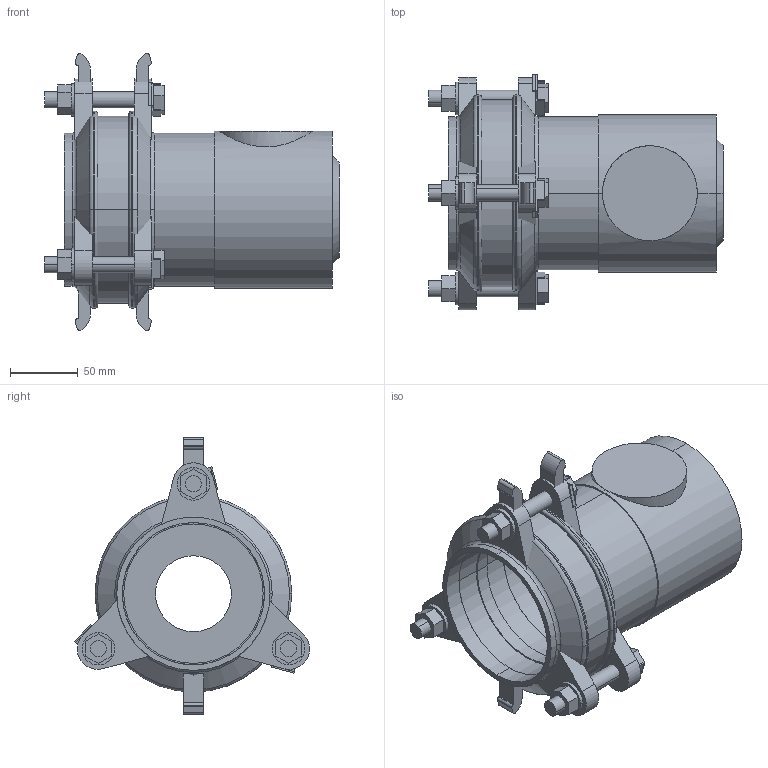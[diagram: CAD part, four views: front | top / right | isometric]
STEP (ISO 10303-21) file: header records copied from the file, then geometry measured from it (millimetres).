
FILE_DESCRIPTION(('STEP AP214'),'1');
FILE_NAME('HDA1003930 DN 80 axial.STP','2015-02-06T09:59:44',(' '),(' '),'Spatial InterOp 3D',' ',' ');
FILE_SCHEMA(('automotive_design'));
Length unit declared in the file: millimetre
Products named in the file (34): 3D-Objekt
Bounding box: 217 x 173.26 x 204 mm (x, y, z)
Volume: 827785.7 mm3; surface area: 300422.9 mm2
Topology: 34 solids, 34 shells, 278 faces, 618 edges, 410 vertices
Faces by surface type: plane 181, cylinder 75, torus 12, cone 10
Entity records: 10875 total; most frequent: CARTESIAN_POINT 1471, DIRECTION 1442, ORIENTED_EDGE 1236, EDGE_CURVE 618, AXIS2_PLACEMENT_3D 514, LINE 414, VECTOR 414, VERTEX_POINT 410
